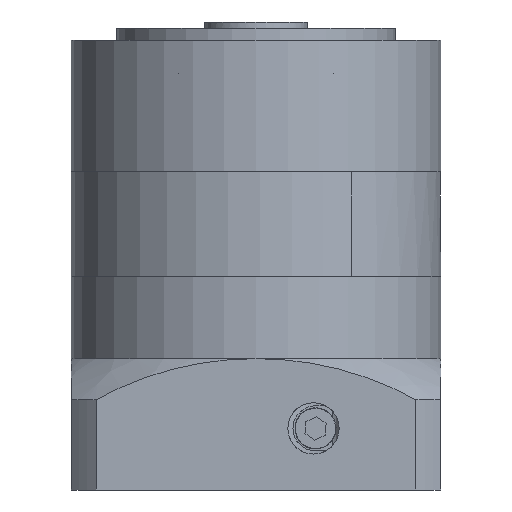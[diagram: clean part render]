
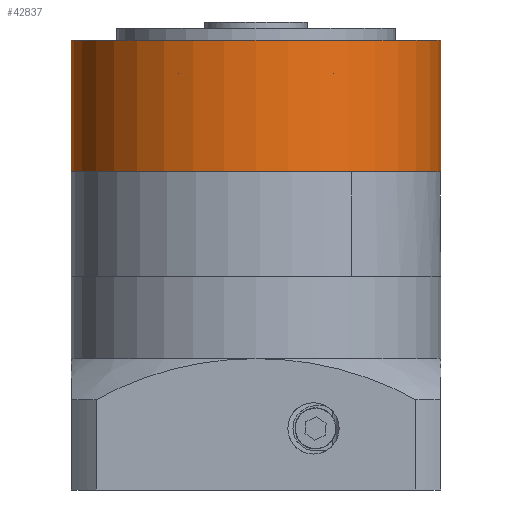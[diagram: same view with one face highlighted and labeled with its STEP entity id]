
A CAD part, front view. The second image highlights one B-rep face of the part: STEP entity #42837.
In plain terms, the highlighted cylindrical face has radius 45 mm (diameter 90 mm), a partial arc.
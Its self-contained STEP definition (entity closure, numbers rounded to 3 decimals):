
#1361 = ORIENTED_EDGE ( 'NONE', *, *, #24368, .T. ) ;
#2671 = VERTEX_POINT ( 'NONE', #13834 ) ;
#3002 = CARTESIAN_POINT ( 'NONE',  ( 45., 0., -35. ) ) ;
#3647 = DIRECTION ( 'NONE',  ( 1., 0., 0. ) ) ;
#4538 = DIRECTION ( 'NONE',  ( 0., 0., -1. ) ) ;
#4691 = EDGE_LOOP ( 'NONE', ( #44847, #17227, #26695, #1361 ) ) ;
#7264 = LINE ( 'NONE', #22870, #42991 ) ;
#7566 = DIRECTION ( 'NONE',  ( 0., 0., 1. ) ) ;
#7574 = CARTESIAN_POINT ( 'NONE',  ( 45., 0., 0. ) ) ;
#7944 = CARTESIAN_POINT ( 'NONE',  ( 0., 0., -3. ) ) ;
#9157 = DIRECTION ( 'NONE',  ( 0., 0., 1. ) ) ;
#9777 = EDGE_CURVE ( 'NONE', #10020, #2671, #26977, .T. ) ;
#10020 = VERTEX_POINT ( 'NONE', #3002 ) ;
#11418 = DIRECTION ( 'NONE',  ( 1., 0., 0. ) ) ;
#13396 = EDGE_CURVE ( 'NONE', #41351, #32652, #7264, .T. ) ;
#13834 = CARTESIAN_POINT ( 'NONE',  ( 45., 0., -3. ) ) ;
#14025 = CARTESIAN_POINT ( 'NONE',  ( -45., 0., -3. ) ) ;
#16466 = CYLINDRICAL_SURFACE ( 'NONE', #34946, 45. ) ;
#17227 = ORIENTED_EDGE ( 'NONE', *, *, #19490, .F. ) ;
#18627 = FACE_OUTER_BOUND ( 'NONE', #4691, .T. ) ;
#19490 = EDGE_CURVE ( 'NONE', #10020, #41351, #30295, .T. ) ;
#22870 = CARTESIAN_POINT ( 'NONE',  ( -45., 0., 0. ) ) ;
#24368 = EDGE_CURVE ( 'NONE', #2671, #32652, #32740, .T. ) ;
#25259 = CARTESIAN_POINT ( 'NONE',  ( 0., 0., -35. ) ) ;
#25886 = VECTOR ( 'NONE', #7566, 1000. ) ;
#26695 = ORIENTED_EDGE ( 'NONE', *, *, #9777, .T. ) ;
#26977 = LINE ( 'NONE', #7574, #25886 ) ;
#27243 = AXIS2_PLACEMENT_3D ( 'NONE', #25259, #4538, #28755 ) ;
#28755 = DIRECTION ( 'NONE',  ( 1., 0., 0. ) ) ;
#30295 = CIRCLE ( 'NONE', #27243, 45. ) ;
#31360 = DIRECTION ( 'NONE',  ( 0., 0., 1. ) ) ;
#32144 = DIRECTION ( 'NONE',  ( 0., 0., -1. ) ) ;
#32652 = VERTEX_POINT ( 'NONE', #14025 ) ;
#32740 = CIRCLE ( 'NONE', #36473, 45. ) ;
#34859 = CARTESIAN_POINT ( 'NONE',  ( 0., 0., 0. ) ) ;
#34946 = AXIS2_PLACEMENT_3D ( 'NONE', #34859, #31360, #3647 ) ;
#36473 = AXIS2_PLACEMENT_3D ( 'NONE', #7944, #32144, #11418 ) ;
#41351 = VERTEX_POINT ( 'NONE', #42874 ) ;
#42837 = ADVANCED_FACE ( 'NONE', ( #18627 ), #16466, .T. ) ;
#42874 = CARTESIAN_POINT ( 'NONE',  ( -45., 0., -35. ) ) ;
#42991 = VECTOR ( 'NONE', #9157, 1000. ) ;
#44847 = ORIENTED_EDGE ( 'NONE', *, *, #13396, .F. ) ;
